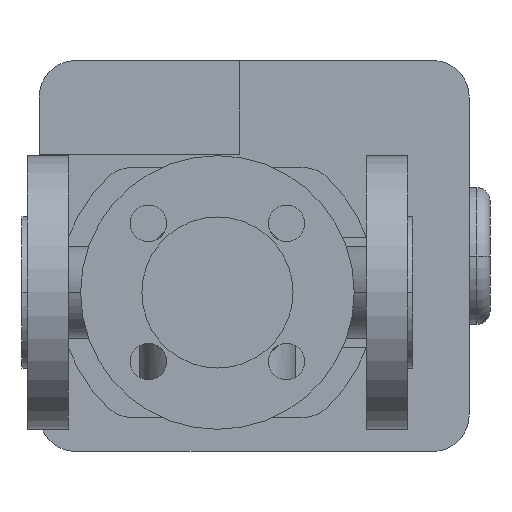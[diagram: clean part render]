
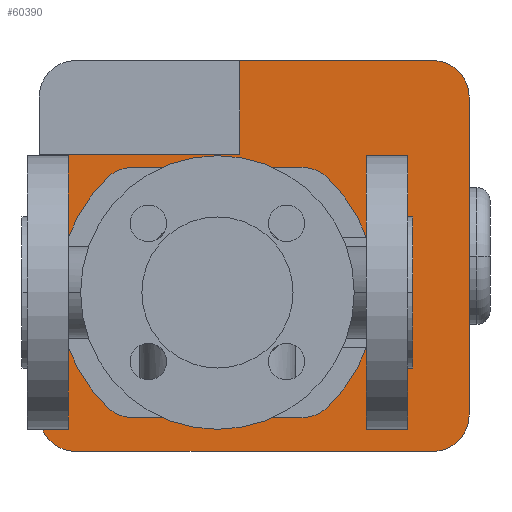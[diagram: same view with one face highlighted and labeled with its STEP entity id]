
A CAD part, front view. The second image highlights one B-rep face of the part: STEP entity #60390.
In plain terms, the highlighted planar face has unit normal (0, -1, 0).
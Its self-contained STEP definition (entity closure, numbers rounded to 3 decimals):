
#52130=CARTESIAN_POINT('',(134.96,498.,11.216));
#52140=VERTEX_POINT('',#52130);
#52170=CARTESIAN_POINT('',(125.,498.,0.));
#52180=DIRECTION('',(0.,1.,0.));
#52190=DIRECTION('',(0.,0.,1.));
#52200=AXIS2_PLACEMENT_3D('',#52170,#52180,#52190);
#52210=CIRCLE('',#52200,15.);
#52220=CARTESIAN_POINT('',(134.96,498.,-11.216));
#52230=VERTEX_POINT('',#52220);
#52240=EDGE_CURVE('',#52140,#52230,#52210,.T.);
#54960=CARTESIAN_POINT('',(117.116,498.,44.128));
#54970=VERTEX_POINT('',#54960);
#55000=CARTESIAN_POINT('',(75.,498.,0.));
#55010=DIRECTION('',(0.,1.,0.));
#55020=DIRECTION('',(0.69,0.,0.723));
#55030=AXIS2_PLACEMENT_3D('',#55000,#55010,#55020);
#55040=CIRCLE('',#55030,61.);
#55050=EDGE_CURVE('',#54970,#52140,#55040,.T.);
#55440=CARTESIAN_POINT('',(15.04,498.,-11.216));
#55450=VERTEX_POINT('',#55440);
#55480=CARTESIAN_POINT('',(25.,498.,0.));
#55490=DIRECTION('',(0.,1.,0.));
#55500=DIRECTION('',(0.,0.,-1.));
#55510=AXIS2_PLACEMENT_3D('',#55480,#55490,#55500);
#55520=CIRCLE('',#55510,15.);
#55530=CARTESIAN_POINT('',(15.04,498.,11.216));
#55540=VERTEX_POINT('',#55530);
#55550=EDGE_CURVE('',#55450,#55540,#55520,.T.);
#56540=CARTESIAN_POINT('',(32.884,498.,-44.128));
#56550=VERTEX_POINT('',#56540);
#56580=CARTESIAN_POINT('',(75.,498.,0.));
#56590=DIRECTION('',(0.,1.,0.));
#56600=DIRECTION('',(-0.69,0.,-0.723));
#56610=AXIS2_PLACEMENT_3D('',#56580,#56590,#56600);
#56620=CIRCLE('',#56610,61.);
#56630=EDGE_CURVE('',#56550,#55450,#56620,.T.);
#58850=CARTESIAN_POINT('',(75.,498.,0.));
#58860=DIRECTION('',(0.,1.,0.));
#58870=DIRECTION('',(0.,0.,1.));
#58880=AXIS2_PLACEMENT_3D('',#58850,#58860,#58870);
#58890=PLANE('',#58880);
#58900=ORIENTED_EDGE('',*,*,#55050,.T.);
#58910=CARTESIAN_POINT('',(107.45,498.,34.));
#58920=DIRECTION('',(0.,1.,0.));
#58930=DIRECTION('',(0.,0.,1.));
#58940=AXIS2_PLACEMENT_3D('',#58910,#58920,#58930);
#58950=CIRCLE('',#58940,14.);
#58960=CARTESIAN_POINT('',(107.45,498.,48.));
#58970=VERTEX_POINT('',#58960);
#58980=EDGE_CURVE('',#58970,#54970,#58950,.T.);
#58990=ORIENTED_EDGE('',*,*,#58980,.T.);
#59000=CARTESIAN_POINT('',(58.775,498.,48.));
#59010=DIRECTION('',(1.,0.,0.));
#59020=VECTOR('',#59010,1.);
#59030=LINE('',#59000,#59020);
#59040=CARTESIAN_POINT('',(42.55,498.,48.));
#59050=VERTEX_POINT('',#59040);
#59060=EDGE_CURVE('',#59050,#58970,#59030,.T.);
#59070=ORIENTED_EDGE('',*,*,#59060,.T.);
#59080=CARTESIAN_POINT('',(42.55,498.,34.));
#59090=DIRECTION('',(0.,1.,0.));
#59100=DIRECTION('',(-0.69,0.,0.723));
#59110=AXIS2_PLACEMENT_3D('',#59080,#59090,#59100);
#59120=CIRCLE('',#59110,14.);
#59130=CARTESIAN_POINT('',(32.884,498.,44.128));
#59140=VERTEX_POINT('',#59130);
#59150=EDGE_CURVE('',#59140,#59050,#59120,.T.);
#59160=ORIENTED_EDGE('',*,*,#59150,.T.);
#59170=CARTESIAN_POINT('',(75.,498.,0.));
#59180=DIRECTION('',(0.,1.,0.));
#59190=DIRECTION('',(-0.69,0.,-0.723));
#59200=AXIS2_PLACEMENT_3D('',#59170,#59180,#59190);
#59210=CIRCLE('',#59200,61.);
#59220=EDGE_CURVE('',#55540,#59140,#59210,.T.);
#59230=ORIENTED_EDGE('',*,*,#59220,.T.);
#59240=ORIENTED_EDGE('',*,*,#55550,.T.);
#59250=ORIENTED_EDGE('',*,*,#56630,.T.);
#59260=CARTESIAN_POINT('',(42.55,498.,-34.));
#59270=DIRECTION('',(0.,1.,0.));
#59280=DIRECTION('',(0.,0.,-1.));
#59290=AXIS2_PLACEMENT_3D('',#59260,#59270,#59280);
#59300=CIRCLE('',#59290,14.);
#59310=CARTESIAN_POINT('',(42.55,498.,-48.));
#59320=VERTEX_POINT('',#59310);
#59330=EDGE_CURVE('',#59320,#56550,#59300,.T.);
#59340=ORIENTED_EDGE('',*,*,#59330,.T.);
#59350=CARTESIAN_POINT('',(91.225,498.,-48.));
#59360=DIRECTION('',(-1.,0.,0.));
#59370=VECTOR('',#59360,1.);
#59380=LINE('',#59350,#59370);
#59390=CARTESIAN_POINT('',(107.45,498.,-48.));
#59400=VERTEX_POINT('',#59390);
#59410=EDGE_CURVE('',#59400,#59320,#59380,.T.);
#59420=ORIENTED_EDGE('',*,*,#59410,.T.);
#59430=CARTESIAN_POINT('',(107.45,498.,-34.));
#59440=DIRECTION('',(0.,1.,0.));
#59450=DIRECTION('',(0.69,0.,-0.723));
#59460=AXIS2_PLACEMENT_3D('',#59430,#59440,#59450);
#59470=CIRCLE('',#59460,14.);
#59480=CARTESIAN_POINT('',(117.116,498.,-44.128));
#59490=VERTEX_POINT('',#59480);
#59500=EDGE_CURVE('',#59490,#59400,#59470,.T.);
#59510=ORIENTED_EDGE('',*,*,#59500,.T.);
#59520=CARTESIAN_POINT('',(75.,498.,0.));
#59530=DIRECTION('',(0.,1.,0.));
#59540=DIRECTION('',(0.69,0.,0.723));
#59550=AXIS2_PLACEMENT_3D('',#59520,#59530,#59540);
#59560=CIRCLE('',#59550,61.);
#59570=EDGE_CURVE('',#52230,#59490,#59560,.T.);
#59580=ORIENTED_EDGE('',*,*,#59570,.T.);
#59590=ORIENTED_EDGE('',*,*,#52240,.T.);
#59600=EDGE_LOOP('',(#59590,#59580,#59510,#59420,#59340,#59250,#59240,
#59230,#59160,#59070,#58990,#58900));
#59610=FACE_BOUND('',#59600,.T.);
#59620=CARTESIAN_POINT('',(83.6,498.,26.5));
#59630=DIRECTION('',(0.,0.,-1.));
#59640=VECTOR('',#59630,1.);
#59650=LINE('',#59620,#59640);
#59660=CARTESIAN_POINT('',(83.6,498.,89.));
#59670=VERTEX_POINT('',#59660);
#59680=CARTESIAN_POINT('',(83.6,498.,53.));
#59690=VERTEX_POINT('',#59680);
#59700=EDGE_CURVE('',#59670,#59690,#59650,.T.);
#59710=ORIENTED_EDGE('',*,*,#59700,.T.);
#59720=CARTESIAN_POINT('',(20.6,498.,89.));
#59730=DIRECTION('',(1.,0.,0.));
#59740=VECTOR('',#59730,1.);
#59750=LINE('',#59720,#59740);
#59760=CARTESIAN_POINT('',(157.6,498.,89.));
#59770=VERTEX_POINT('',#59760);
#59780=EDGE_CURVE('',#59670,#59770,#59750,.T.);
#59790=ORIENTED_EDGE('',*,*,#59780,.F.);
#59800=CARTESIAN_POINT('',(157.6,498.,75.));
#59810=DIRECTION('',(0.,1.,0.));
#59820=DIRECTION('',(0.,0.,1.));
#59830=AXIS2_PLACEMENT_3D('',#59800,#59810,#59820);
#59840=CIRCLE('',#59830,14.);
#59850=CARTESIAN_POINT('',(171.6,498.,75.));
#59860=VERTEX_POINT('',#59850);
#59870=EDGE_CURVE('',#59770,#59860,#59840,.T.);
#59880=ORIENTED_EDGE('',*,*,#59870,.F.);
#59890=CARTESIAN_POINT('',(171.6,498.,75.));
#59900=DIRECTION('',(0.,0.,-1.));
#59910=VECTOR('',#59900,1.);
#59920=LINE('',#59890,#59910);
#59930=CARTESIAN_POINT('',(171.6,498.,-47.));
#59940=VERTEX_POINT('',#59930);
#59950=EDGE_CURVE('',#59860,#59940,#59920,.T.);
#59960=ORIENTED_EDGE('',*,*,#59950,.F.);
#59970=CARTESIAN_POINT('',(157.6,498.,-47.));
#59980=DIRECTION('',(0.,1.,0.));
#59990=DIRECTION('',(1.,0.,0.));
#60000=AXIS2_PLACEMENT_3D('',#59970,#59980,#59990);
#60010=CIRCLE('',#60000,14.);
#60020=CARTESIAN_POINT('',(157.6,498.,-61.));
#60030=VERTEX_POINT('',#60020);
#60040=EDGE_CURVE('',#59940,#60030,#60010,.T.);
#60050=ORIENTED_EDGE('',*,*,#60040,.F.);
#60060=CARTESIAN_POINT('',(157.6,498.,-61.));
#60070=DIRECTION('',(-1.,0.,0.));
#60080=VECTOR('',#60070,1.);
#60090=LINE('',#60060,#60080);
#60100=CARTESIAN_POINT('',(20.6,498.,-61.));
#60110=VERTEX_POINT('',#60100);
#60120=EDGE_CURVE('',#60030,#60110,#60090,.T.);
#60130=ORIENTED_EDGE('',*,*,#60120,.F.);
#60140=CARTESIAN_POINT('',(20.6,498.,-47.));
#60150=DIRECTION('',(0.,1.,0.));
#60160=DIRECTION('',(0.,0.,-1.));
#60170=AXIS2_PLACEMENT_3D('',#60140,#60150,#60160);
#60180=CIRCLE('',#60170,14.);
#60190=CARTESIAN_POINT('',(6.6,498.,-47.));
#60200=VERTEX_POINT('',#60190);
#60210=EDGE_CURVE('',#60110,#60200,#60180,.T.);
#60220=ORIENTED_EDGE('',*,*,#60210,.F.);
#60230=CARTESIAN_POINT('',(6.6,498.,-47.));
#60240=DIRECTION('',(0.,0.,1.));
#60250=VECTOR('',#60240,1.);
#60260=LINE('',#60230,#60250);
#60270=CARTESIAN_POINT('',(6.6,498.,53.));
#60280=VERTEX_POINT('',#60270);
#60290=EDGE_CURVE('',#60200,#60280,#60260,.T.);
#60300=ORIENTED_EDGE('',*,*,#60290,.F.);
#60310=CARTESIAN_POINT('',(40.3,498.,53.));
#60320=DIRECTION('',(-1.,0.,0.));
#60330=VECTOR('',#60320,1.);
#60340=LINE('',#60310,#60330);
#60350=EDGE_CURVE('',#59690,#60280,#60340,.T.);
#60360=ORIENTED_EDGE('',*,*,#60350,.T.);
#60370=EDGE_LOOP('',(#60360,#60300,#60220,#60130,#60050,#59960,#59880,
#59790,#59710));
#60380=FACE_OUTER_BOUND('',#60370,.T.);
#60390=ADVANCED_FACE('',(#59610,#60380),#58890,.F.);
